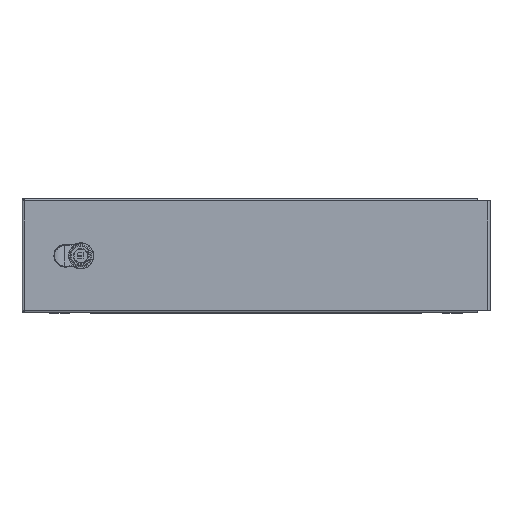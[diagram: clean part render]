
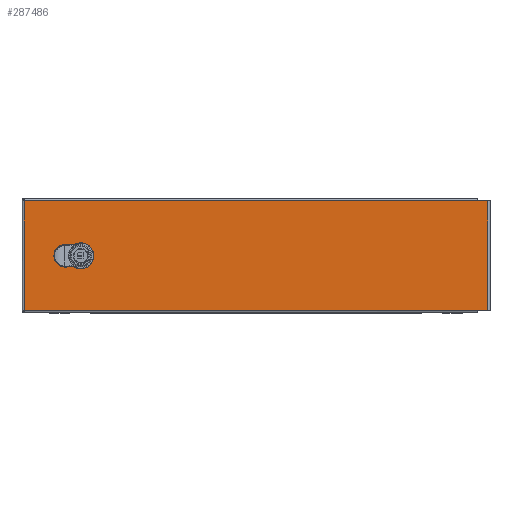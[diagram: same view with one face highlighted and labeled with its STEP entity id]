
A CAD part, top view. The second image highlights one B-rep face of the part: STEP entity #287486.
In plain terms, the highlighted planar face has unit normal (0, 0, 1).
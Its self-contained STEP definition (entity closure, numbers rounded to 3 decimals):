
#284651=CARTESIAN_POINT(' ',(234.752,95.212,104.253));
#284652=VERTEX_POINT(' ',#284651);
#286381=CARTESIAN_POINT(' ',(234.752,95.212,104.253));
#286386=DIRECTION(' ',(-1.,0.,0.));
#286391=VECTOR(' ',#286386,1.);
#286396=LINE('',#286381,#286391);
#286401=CARTESIAN_POINT(' ',(-340.448,95.212,104.253));
#286402=VERTEX_POINT(' ',#286401);
#286406=EDGE_CURVE(' ',#284652,#286402,#286396,.T.);
#286706=CARTESIAN_POINT(' ',(247.952,95.212,104.253));
#286711=DIRECTION(' ',(-1.,0.,0.));
#286716=VECTOR(' ',#286711,1.);
#286721=LINE('',#286706,#286716);
#286726=CARTESIAN_POINT(' ',(247.952,95.212,104.253));
#286727=VERTEX_POINT(' ',#286726);
#286731=EDGE_CURVE(' ',#286727,#284652,#286721,.T.);
#287306=DIRECTION(' ',(-0.,-0.,1.));
#287311=CARTESIAN_POINT(' ',(247.952,-44.188,104.253));
#287316=DIRECTION(' ',(0.,1.,0.));
#287321=AXIS2_PLACEMENT_3D(' ',#287311,#287306,#287316);
#287326=PLANE('NONE',#287321);
#287331=CARTESIAN_POINT(' ',(-340.448,-44.188,104.253));
#287336=DIRECTION(' ',(1.,0.,0.));
#287341=VECTOR(' ',#287336,1.);
#287346=LINE('',#287331,#287341);
#287351=CARTESIAN_POINT(' ',(-340.448,-44.188,104.253));
#287352=VERTEX_POINT(' ',#287351);
#287356=CARTESIAN_POINT(' ',(234.752,-44.188,104.253));
#287357=VERTEX_POINT(' ',#287356);
#287361=EDGE_CURVE(' ',#287352,#287357,#287346,.T.);
#287366=ORIENTED_EDGE(' ',*,*,#287361,.T.);
#287371=CARTESIAN_POINT(' ',(234.752,-44.188,104.253));
#287376=DIRECTION(' ',(1.,0.,0.));
#287381=VECTOR(' ',#287376,1.);
#287386=LINE('',#287371,#287381);
#287391=CARTESIAN_POINT(' ',(247.952,-44.188,104.253));
#287392=VERTEX_POINT(' ',#287391);
#287396=EDGE_CURVE(' ',#287357,#287392,#287386,.T.);
#287401=ORIENTED_EDGE(' ',*,*,#287396,.T.);
#287406=CARTESIAN_POINT(' ',(247.952,95.212,104.253));
#287411=DIRECTION(' ',(0.,-1.,0.));
#287416=VECTOR(' ',#287411,1.);
#287421=LINE('',#287406,#287416);
#287426=EDGE_CURVE(' ',#286727,#287392,#287421,.T.);
#287431=ORIENTED_EDGE(' ',*,*,#287426,.F.);
#287436=ORIENTED_EDGE(' ',*,*,#286731,.T.);
#287441=ORIENTED_EDGE(' ',*,*,#286406,.T.);
#287446=CARTESIAN_POINT(' ',(-340.448,95.212,104.253));
#287451=DIRECTION(' ',(0.,-1.,0.));
#287456=VECTOR(' ',#287451,1.);
#287461=LINE('',#287446,#287456);
#287466=EDGE_CURVE(' ',#286402,#287352,#287461,.T.);
#287471=ORIENTED_EDGE(' ',*,*,#287466,.T.);
#287476=EDGE_LOOP(' ',(#287366,#287401,#287431,#287436,#287441,#287471));
#287481=FACE_OUTER_BOUND(' ',#287476,.T.);
#287486=ADVANCED_FACE('NONE',(#287481),#287326,.T.);
